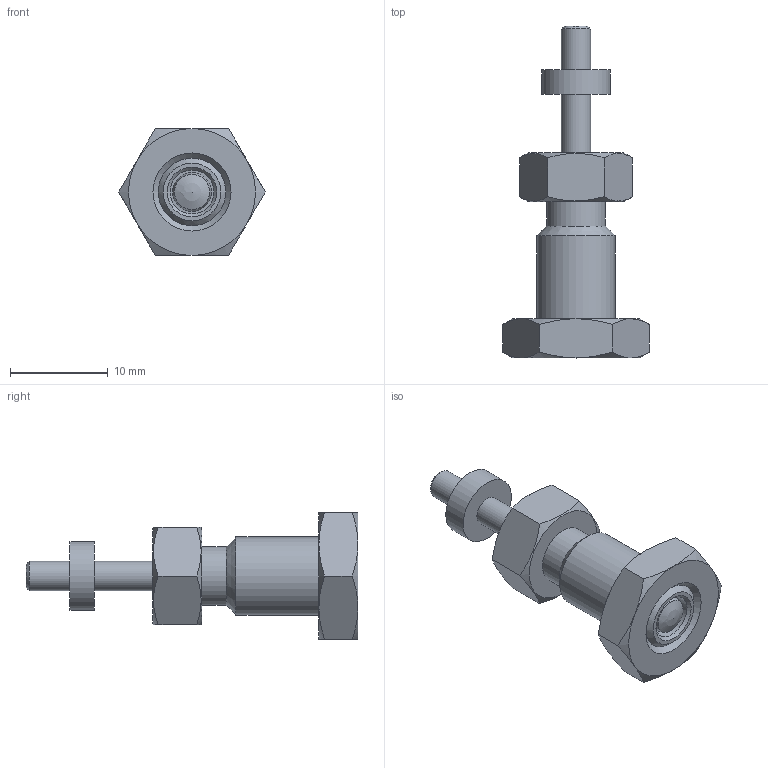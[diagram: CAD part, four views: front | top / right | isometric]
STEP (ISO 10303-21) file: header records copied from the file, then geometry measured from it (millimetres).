
FILE_DESCRIPTION( ( 'STEP AP203' ), '1' );
FILE_NAME( 'C:/Temp/Ganter_Step_05_03_2020/data/3_1/gn817/gn817_ni-rastbolzen/Stainless Steel-Indexing plunger GN 817-4-6-GK-NI (activated-0).stp', '2020-03-12T08:59:57', ( 'License CC BY-ND 4.0' ), ( 'CADENAS' ), ' ', 'PARTsolutions', ' ' );
FILE_SCHEMA( ( 'CONFIG_CONTROL_DESIGN' ) );
Length unit declared in the file: millimetre
Products named in the file (5): Stainless Steel-Indexing plunger GN 817-4-6-GK-NI (activated-0); _Stainless steel-Indexing plunger GN 817-4-6-GK-NI (activated-0)-d; _Stainless steel-Indexing plunger GN 817-4-6-B-NI-2; _Stainless Steel-Indexing plunger GN 817-4-6-G-NI-6; _Stainless steel-Indexing plunger GN 817-4-6-BK-NI (deactivated-0)-3
Assembly tree (4 placements, depth 2):
  Stainless Steel-Indexing plunger GN 817-4-6-GK-NI (activated-0)
    _Stainless steel-Indexing plunger GN 817-4-6-GK-NI (activated-0)-d
    _Stainless steel-Indexing plunger GN 817-4-6-B-NI-2
    _Stainless Steel-Indexing plunger GN 817-4-6-G-NI-6
    _Stainless steel-Indexing plunger GN 817-4-6-BK-NI (deactivated-0)-3
Bounding box: 15.01 x 34 x 13 mm (x, y, z)
Volume: 1720.5 mm3; surface area: 1957.5 mm2
Topology: 3 solids, 3 shells, 58 faces, 116 edges, 70 vertices
Faces by surface type: plane 23, cone 22, cylinder 10, torus 2, sphere 1
Full cylindrical faces by diameter (mm): 3 x3, 4 x1, 4.5 x2, 6 x1, 6.917 x1, 7 x1, 8 x1
Entity records: 1704 total; most frequent: CARTESIAN_POINT 467, DIRECTION 224, ORIENTED_EDGE 182, AXIS2_PLACEMENT_3D 106, EDGE_CURVE 91, EDGE_LOOP 90, FACE_OUTER_BOUND 70, VERTEX_POINT 68
